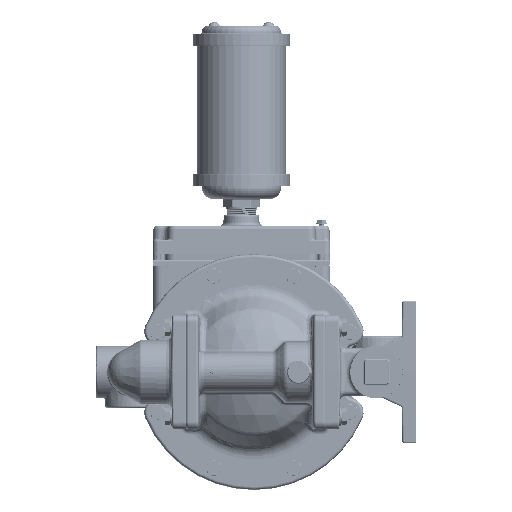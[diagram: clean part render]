
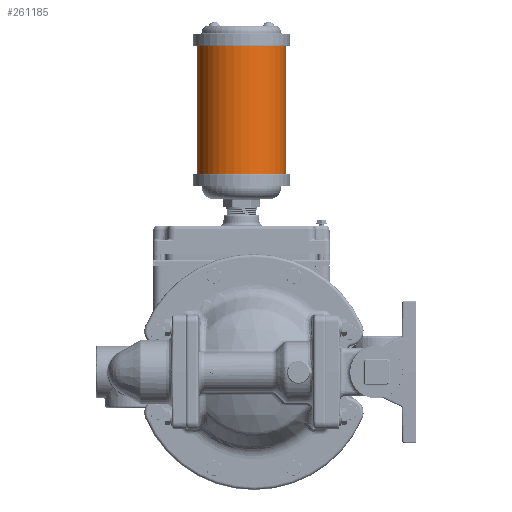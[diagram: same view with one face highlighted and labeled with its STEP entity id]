
A CAD part, left-side view. The second image highlights one B-rep face of the part: STEP entity #261185.
In plain terms, the highlighted cylindrical face has radius 39.243 mm (diameter 78.486 mm), a partial arc.
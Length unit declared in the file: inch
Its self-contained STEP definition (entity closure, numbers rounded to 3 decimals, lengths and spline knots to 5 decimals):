
#12776 = CARTESIAN_POINT ( 'NONE',  ( 0., -1.11, 6.951 ) ) ;
#15611 = CARTESIAN_POINT ( 'NONE',  ( 0., 1.98, 11.43 ) ) ;
#21966 = ORIENTED_EDGE ( 'NONE', *, *, #241794, .F. ) ;
#30206 = DIRECTION ( 'NONE',  ( 0., 1., 0. ) ) ;
#30440 = CIRCLE ( 'NONE', #186501, 1.545 ) ;
#33459 = ORIENTED_EDGE ( 'NONE', *, *, #209314, .F. ) ;
#34852 = DIRECTION ( 'NONE',  ( 0., 0., 1. ) ) ;
#42184 = CARTESIAN_POINT ( 'NONE',  ( 0., 1.98, 6.951 ) ) ;
#47668 = EDGE_LOOP ( 'NONE', ( #267740, #105244, #33459, #21966 ) ) ;
#49753 = LINE ( 'NONE', #264646, #137363 ) ;
#66611 = DIRECTION ( 'NONE',  ( 0., -1., 0. ) ) ;
#69367 = FACE_OUTER_BOUND ( 'NONE', #47668, .T. ) ;
#72110 = CARTESIAN_POINT ( 'NONE',  ( 0., 0.435, 6.951 ) ) ;
#75633 = LINE ( 'NONE', #12776, #98102 ) ;
#87584 = CYLINDRICAL_SURFACE ( 'NONE', #224660, 1.545 ) ;
#88964 = DIRECTION ( 'NONE',  ( 0., 0., -1. ) ) ;
#98102 = VECTOR ( 'NONE', #142643, 39.37008 ) ;
#105244 = ORIENTED_EDGE ( 'NONE', *, *, #128949, .T. ) ;
#121448 = CARTESIAN_POINT ( 'NONE',  ( 0., 0.435, 11.43 ) ) ;
#128949 = EDGE_CURVE ( 'NONE', #200413, #201939, #75633, .T. ) ;
#135012 = DIRECTION ( 'NONE',  ( 0., 0., 1. ) ) ;
#137363 = VECTOR ( 'NONE', #160048, 39.37008 ) ;
#142643 = DIRECTION ( 'NONE',  ( 0., 0., 1. ) ) ;
#160048 = DIRECTION ( 'NONE',  ( 0., 0., 1. ) ) ;
#178163 = CIRCLE ( 'NONE', #258406, 1.545 ) ;
#180137 = DIRECTION ( 'NONE',  ( 0., 1., 0. ) ) ;
#186501 = AXIS2_PLACEMENT_3D ( 'NONE', #121448, #34852, #180137 ) ;
#188325 = CARTESIAN_POINT ( 'NONE',  ( 0., -1.11, 11.43 ) ) ;
#196087 = VERTEX_POINT ( 'NONE', #15611 ) ;
#200413 = VERTEX_POINT ( 'NONE', #230396 ) ;
#201939 = VERTEX_POINT ( 'NONE', #188325 ) ;
#209314 = EDGE_CURVE ( 'NONE', #196087, #201939, #30440, .T. ) ;
#224660 = AXIS2_PLACEMENT_3D ( 'NONE', #263285, #88964, #66611 ) ;
#230396 = CARTESIAN_POINT ( 'NONE',  ( 0., -1.11, 6.951 ) ) ;
#241794 = EDGE_CURVE ( 'NONE', #260509, #196087, #49753, .T. ) ;
#244533 = EDGE_CURVE ( 'NONE', #260509, #200413, #178163, .T. ) ;
#258406 = AXIS2_PLACEMENT_3D ( 'NONE', #72110, #135012, #30206 ) ;
#260509 = VERTEX_POINT ( 'NONE', #42184 ) ;
#261185 = ADVANCED_FACE ( 'NONE', ( #69367 ), #87584, .T. ) ;
#263285 = CARTESIAN_POINT ( 'NONE',  ( 0., 0.435, 12.455 ) ) ;
#264646 = CARTESIAN_POINT ( 'NONE',  ( 0., 1.98, 6.951 ) ) ;
#267740 = ORIENTED_EDGE ( 'NONE', *, *, #244533, .T. ) ;
